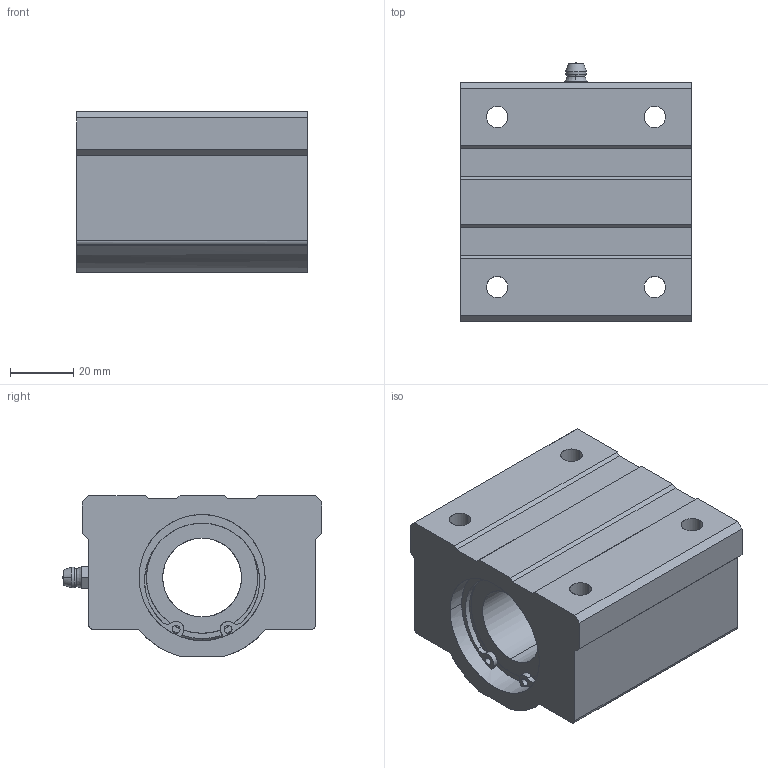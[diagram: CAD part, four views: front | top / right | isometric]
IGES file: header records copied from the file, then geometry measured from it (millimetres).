
Global section: file name: No Iges File Name specified; native system: AutoDesk Inventor R10; preprocessor: AutoDesk Inventor Iges Exporter R10; author: No Author specified; organization: No Organization specified; date: 20101214.143437; units: millimetre
Bounding box: 73 x 82.4 x 51 mm (x, y, z)
Surface area: 35371.8 mm2 (no closed solid volume)
Topology: 0 solids, 0 shells, 134 faces, 940 edges, 936 vertices
Faces by surface type: bspline 134
